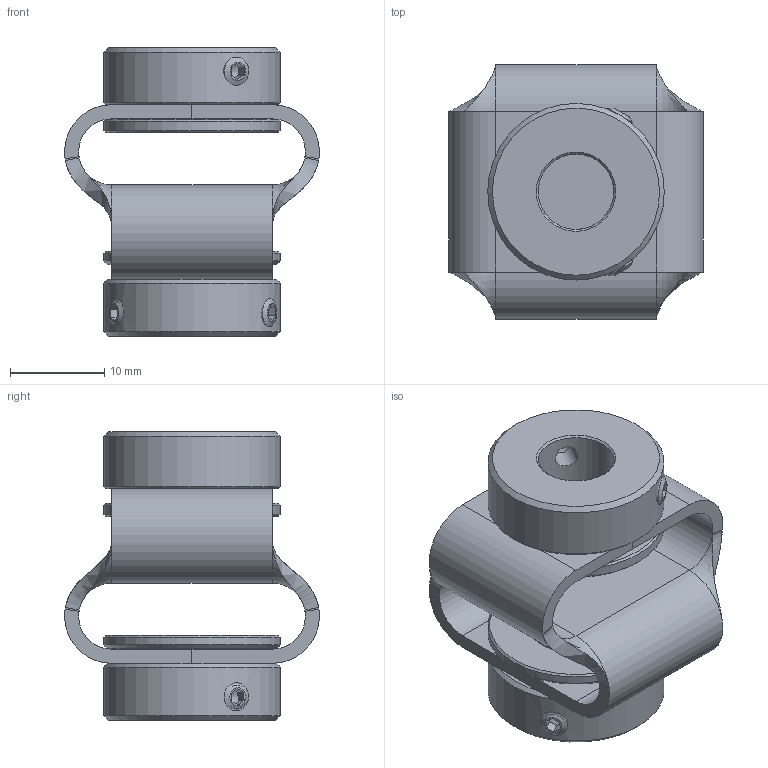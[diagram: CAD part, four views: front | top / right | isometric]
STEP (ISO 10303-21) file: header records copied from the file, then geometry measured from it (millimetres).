
FILE_DESCRIPTION(/* description */ ('Stern '),/* implementation_level */ '2;1');
FILE_NAME(/* name */ 'Z:\ABP-Antriebstechnik\Entwicklung-3D\Paguflex\DKPSF\DKPSF2928 08 10.stp',/* time_stamp */ '2024-03-11T13:00:46+01:00',/* author */ ('christian.fehrenbach'),/* organization */ (''),/* preprocessor_version */ 'ST-DEVELOPER v16.1',/* originating_system */ 'Autodesk Inventor 2016',/* authorisation */ '');
FILE_SCHEMA (('AUTOMOTIVE_DESIGN { 1 0 10303 214 3 1 1 }'));
Length unit declared in the file: millimetre
Products named in the file (5): Stern DKPSF2928 gebogen; Schraubnabe 1909 08; Schraubnabe 1909 10; ISO 4029 - M3 x 4 - ISO; DKPSF2928 08 10
Assembly tree (7 placements, depth 2):
  DKPSF2928 08 10
    Stern DKPSF2928 gebogen
    Schraubnabe 1909 08
    Schraubnabe 1909 10
    ISO 4029 - M3 x 4 - ISO  x4
Bounding box: 27 x 27 x 30.6 mm (x, y, z)
Volume: 5576.6 mm3; surface area: 6561.5 mm2
Topology: 7 solids, 11 shells, 162 faces, 348 edges, 198 vertices
Faces by surface type: plane 84, cylinder 30, cone 28, bspline 12, torus 8
Full cylindrical faces by diameter (mm): 2.459 x4, 3 x4, 8 x1, 10 x1, 12.5 x2, 14 x2, 18.7 x4
Entity records: 3475 total; most frequent: CARTESIAN_POINT 1156, DIRECTION 458, ORIENTED_EDGE 416, EDGE_CURVE 200, AXIS2_PLACEMENT_3D 190, EDGE_LOOP 156, VERTEX_POINT 132, FACE_OUTER_BOUND 108
